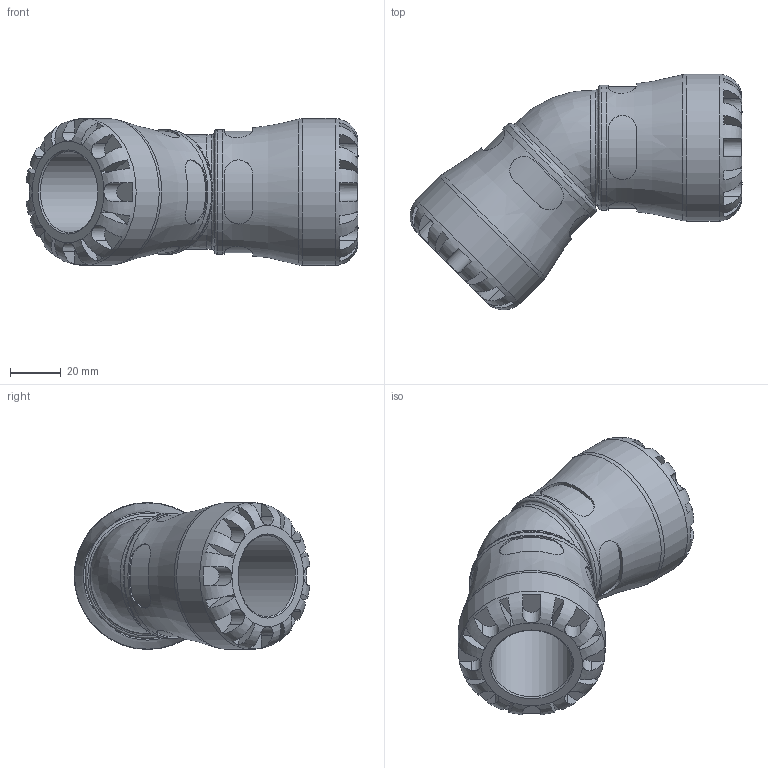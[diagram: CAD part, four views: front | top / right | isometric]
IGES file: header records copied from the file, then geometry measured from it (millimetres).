
Global section: file name: 100600032_190600032.ipt; native system: Autodesk Inventor 2015; preprocessor: unknown; author: KIM; date: 20170122.114537; units: millimetre
Bounding box: 130.97 x 92.97 x 58 mm (x, y, z)
Volume: 180936 mm3; surface area: 41736.6 mm2
Topology: 1 solids, 1 shells, 196 faces, 516 edges, 328 vertices
Faces by surface type: plane 116, revolution 49, cylinder 30, bspline 1
Full cylindrical faces by diameter (mm): 49.3 x2, 58 x2
